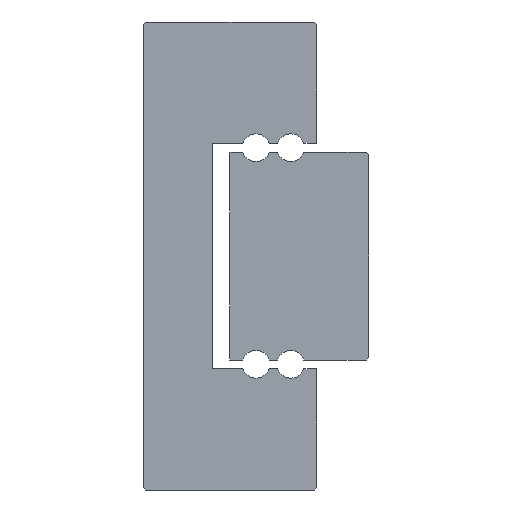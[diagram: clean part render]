
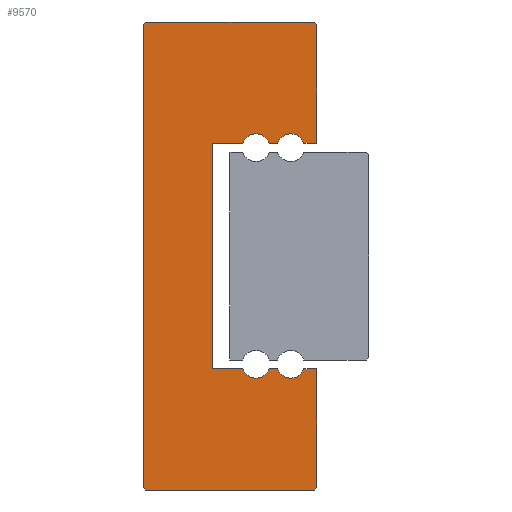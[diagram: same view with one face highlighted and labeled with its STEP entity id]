
A CAD part, left-side view. The second image highlights one B-rep face of the part: STEP entity #9570.
In plain terms, the highlighted planar face has unit normal (-1, 0, 0).
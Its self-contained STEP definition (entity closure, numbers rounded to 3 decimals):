
#318=CIRCLE('',#10402,0.8);
#320=CIRCLE('',#10406,0.8);
#322=CIRCLE('',#10412,0.8);
#324=CIRCLE('',#10416,0.8);
#1622=ORIENTED_EDGE('',*,*,#4004,.F.);
#1623=ORIENTED_EDGE('',*,*,#4456,.F.);
#1624=ORIENTED_EDGE('',*,*,#4453,.F.);
#1625=ORIENTED_EDGE('',*,*,#4438,.F.);
#1626=ORIENTED_EDGE('',*,*,#4435,.F.);
#1627=ORIENTED_EDGE('',*,*,#4432,.F.);
#1628=ORIENTED_EDGE('',*,*,#4429,.F.);
#1629=ORIENTED_EDGE('',*,*,#4426,.F.);
#1630=ORIENTED_EDGE('',*,*,#4423,.T.);
#1631=ORIENTED_EDGE('',*,*,#4420,.F.);
#1632=ORIENTED_EDGE('',*,*,#4417,.T.);
#1633=ORIENTED_EDGE('',*,*,#4414,.F.);
#1634=ORIENTED_EDGE('',*,*,#4411,.F.);
#1635=ORIENTED_EDGE('',*,*,#4408,.F.);
#1636=ORIENTED_EDGE('',*,*,#4405,.T.);
#1637=ORIENTED_EDGE('',*,*,#4402,.F.);
#1638=ORIENTED_EDGE('',*,*,#4399,.T.);
#1639=ORIENTED_EDGE('',*,*,#4396,.F.);
#1640=ORIENTED_EDGE('',*,*,#4393,.F.);
#1641=ORIENTED_EDGE('',*,*,#4390,.F.);
#4004=EDGE_CURVE('',#5458,#5459,#6444,.T.);
#4390=EDGE_CURVE('',#5459,#5844,#6582,.T.);
#4393=EDGE_CURVE('',#5844,#5846,#6585,.T.);
#4396=EDGE_CURVE('',#5846,#5848,#6588,.T.);
#4399=EDGE_CURVE('',#5850,#5848,#318,.T.);
#4402=EDGE_CURVE('',#5850,#5852,#6592,.T.);
#4405=EDGE_CURVE('',#5854,#5852,#320,.T.);
#4408=EDGE_CURVE('',#5854,#5856,#6596,.T.);
#4411=EDGE_CURVE('',#5856,#5858,#6599,.T.);
#4414=EDGE_CURVE('',#5858,#5860,#6602,.T.);
#4417=EDGE_CURVE('',#5862,#5860,#322,.T.);
#4420=EDGE_CURVE('',#5862,#5864,#6606,.T.);
#4423=EDGE_CURVE('',#5866,#5864,#324,.T.);
#4426=EDGE_CURVE('',#5866,#5868,#6610,.T.);
#4429=EDGE_CURVE('',#5868,#5870,#6613,.T.);
#4432=EDGE_CURVE('',#5870,#5872,#6616,.T.);
#4435=EDGE_CURVE('',#5872,#5874,#6619,.T.);
#4438=EDGE_CURVE('',#5874,#5876,#6622,.T.);
#4453=EDGE_CURVE('',#5876,#5890,#6625,.T.);
#4456=EDGE_CURVE('',#5890,#5458,#6628,.T.);
#5458=VERTEX_POINT('',#14657);
#5459=VERTEX_POINT('',#14658);
#5844=VERTEX_POINT('',#15430);
#5846=VERTEX_POINT('',#15436);
#5848=VERTEX_POINT('',#15442);
#5850=VERTEX_POINT('',#15448);
#5852=VERTEX_POINT('',#15454);
#5854=VERTEX_POINT('',#15460);
#5856=VERTEX_POINT('',#15466);
#5858=VERTEX_POINT('',#15472);
#5860=VERTEX_POINT('',#15478);
#5862=VERTEX_POINT('',#15484);
#5864=VERTEX_POINT('',#15490);
#5866=VERTEX_POINT('',#15496);
#5868=VERTEX_POINT('',#15502);
#5870=VERTEX_POINT('',#15508);
#5872=VERTEX_POINT('',#15514);
#5874=VERTEX_POINT('',#15520);
#5876=VERTEX_POINT('',#15526);
#5890=VERTEX_POINT('',#15556);
#6444=LINE('',#14656,#7260);
#6582=LINE('',#15429,#7398);
#6585=LINE('',#15435,#7401);
#6588=LINE('',#15441,#7404);
#6592=LINE('',#15453,#7408);
#6596=LINE('',#15465,#7412);
#6599=LINE('',#15471,#7415);
#6602=LINE('',#15477,#7418);
#6606=LINE('',#15489,#7422);
#6610=LINE('',#15501,#7426);
#6613=LINE('',#15507,#7429);
#6616=LINE('',#15513,#7432);
#6619=LINE('',#15519,#7435);
#6622=LINE('',#15525,#7438);
#6625=LINE('',#15555,#7441);
#6628=LINE('',#15561,#7444);
#7260=VECTOR('',#11441,1000.);
#7398=VECTOR('',#12077,1000.);
#7401=VECTOR('',#12082,1000.);
#7404=VECTOR('',#12087,1000.);
#7408=VECTOR('',#12099,1000.);
#7412=VECTOR('',#12111,1000.);
#7415=VECTOR('',#12116,1000.);
#7418=VECTOR('',#12121,1000.);
#7422=VECTOR('',#12133,1000.);
#7426=VECTOR('',#12145,1000.);
#7429=VECTOR('',#12150,1000.);
#7432=VECTOR('',#12155,1000.);
#7435=VECTOR('',#12160,1000.);
#7438=VECTOR('',#12165,1000.);
#7441=VECTOR('',#12194,1000.);
#7444=VECTOR('',#12199,1000.);
#8140=EDGE_LOOP('',(#1622,#1623,#1624,#1625,#1626,#1627,#1628,#1629,#1630,
#1631,#1632,#1633,#1634,#1635,#1636,#1637,#1638,#1639,#1640,#1641));
#8772=FACE_BOUND('',#8140,.T.);
#9335=PLANE('',#10438);
#9570=ADVANCED_FACE('',(#8772),#9335,.F.);
#10402=AXIS2_PLACEMENT_3D('',#15447,#12092,#12093);
#10406=AXIS2_PLACEMENT_3D('',#15459,#12104,#12105);
#10412=AXIS2_PLACEMENT_3D('',#15483,#12126,#12127);
#10416=AXIS2_PLACEMENT_3D('',#15495,#12138,#12139);
#10438=AXIS2_PLACEMENT_3D('',#15564,#12203,#12204);
#11441=DIRECTION('',(0.,-1.,0.));
#12077=DIRECTION('',(0.,-0.707,-0.707));
#12082=DIRECTION('',(0.,0.,-1.));
#12087=DIRECTION('',(0.,1.,0.));
#12092=DIRECTION('',(1.,0.,0.));
#12093=DIRECTION('',(0.,0.,-1.));
#12099=DIRECTION('',(0.,1.,0.));
#12104=DIRECTION('',(1.,0.,0.));
#12105=DIRECTION('',(0.,0.,-1.));
#12111=DIRECTION('',(0.,1.,0.));
#12116=DIRECTION('',(0.,0.,-1.));
#12121=DIRECTION('',(0.,-1.,0.));
#12126=DIRECTION('',(1.,0.,0.));
#12127=DIRECTION('',(0.,0.,-1.));
#12133=DIRECTION('',(0.,-1.,0.));
#12138=DIRECTION('',(1.,0.,0.));
#12139=DIRECTION('',(0.,0.,-1.));
#12145=DIRECTION('',(0.,-1.,0.));
#12150=DIRECTION('',(0.,0.,-1.));
#12155=DIRECTION('',(0.,0.707,-0.707));
#12160=DIRECTION('',(0.,1.,0.));
#12165=DIRECTION('',(0.,0.707,0.707));
#12194=DIRECTION('',(0.,0.,1.));
#12199=DIRECTION('',(0.,-0.707,0.707));
#12203=DIRECTION('',(1.,0.,0.));
#12204=DIRECTION('',(0.,0.,-1.));
#14656=CARTESIAN_POINT('',(-50.,9.85,13.5));
#14657=CARTESIAN_POINT('',(-50.,9.85,13.5));
#14658=CARTESIAN_POINT('',(-50.,0.15,13.5));
#15429=CARTESIAN_POINT('',(-50.,0.15,13.5));
#15430=CARTESIAN_POINT('',(-50.,0.,13.35));
#15435=CARTESIAN_POINT('',(-50.,0.,13.35));
#15436=CARTESIAN_POINT('',(-50.,0.,6.5));
#15441=CARTESIAN_POINT('',(-50.,0.,6.5));
#15442=CARTESIAN_POINT('',(-50.,0.74,6.5));
#15447=CARTESIAN_POINT('',(-50.,1.5,6.25));
#15448=CARTESIAN_POINT('',(-50.,2.26,6.5));
#15453=CARTESIAN_POINT('',(-50.,2.26,6.5));
#15454=CARTESIAN_POINT('',(-50.,2.74,6.5));
#15459=CARTESIAN_POINT('',(-50.,3.5,6.25));
#15460=CARTESIAN_POINT('',(-50.,4.26,6.5));
#15465=CARTESIAN_POINT('',(-50.,4.26,6.5));
#15466=CARTESIAN_POINT('',(-50.,6.,6.5));
#15471=CARTESIAN_POINT('',(-50.,6.,6.5));
#15472=CARTESIAN_POINT('',(-50.,6.,-6.5));
#15477=CARTESIAN_POINT('',(-50.,6.,-6.5));
#15478=CARTESIAN_POINT('',(-50.,4.26,-6.5));
#15483=CARTESIAN_POINT('',(-50.,3.5,-6.25));
#15484=CARTESIAN_POINT('',(-50.,2.74,-6.5));
#15489=CARTESIAN_POINT('',(-50.,2.74,-6.5));
#15490=CARTESIAN_POINT('',(-50.,2.26,-6.5));
#15495=CARTESIAN_POINT('',(-50.,1.5,-6.25));
#15496=CARTESIAN_POINT('',(-50.,0.74,-6.5));
#15501=CARTESIAN_POINT('',(-50.,0.74,-6.5));
#15502=CARTESIAN_POINT('',(-50.,0.,-6.5));
#15507=CARTESIAN_POINT('',(-50.,0.,-6.5));
#15508=CARTESIAN_POINT('',(-50.,0.,-13.35));
#15513=CARTESIAN_POINT('',(-50.,0.,-13.35));
#15514=CARTESIAN_POINT('',(-50.,0.15,-13.5));
#15519=CARTESIAN_POINT('',(-50.,0.15,-13.5));
#15520=CARTESIAN_POINT('',(-50.,9.85,-13.5));
#15525=CARTESIAN_POINT('',(-50.,9.85,-13.5));
#15526=CARTESIAN_POINT('',(-50.,10.,-13.35));
#15555=CARTESIAN_POINT('',(-50.,10.,-13.35));
#15556=CARTESIAN_POINT('',(-50.,10.,13.35));
#15561=CARTESIAN_POINT('',(-50.,10.,13.35));
#15564=CARTESIAN_POINT('',(-50.,1.5,6.25));
